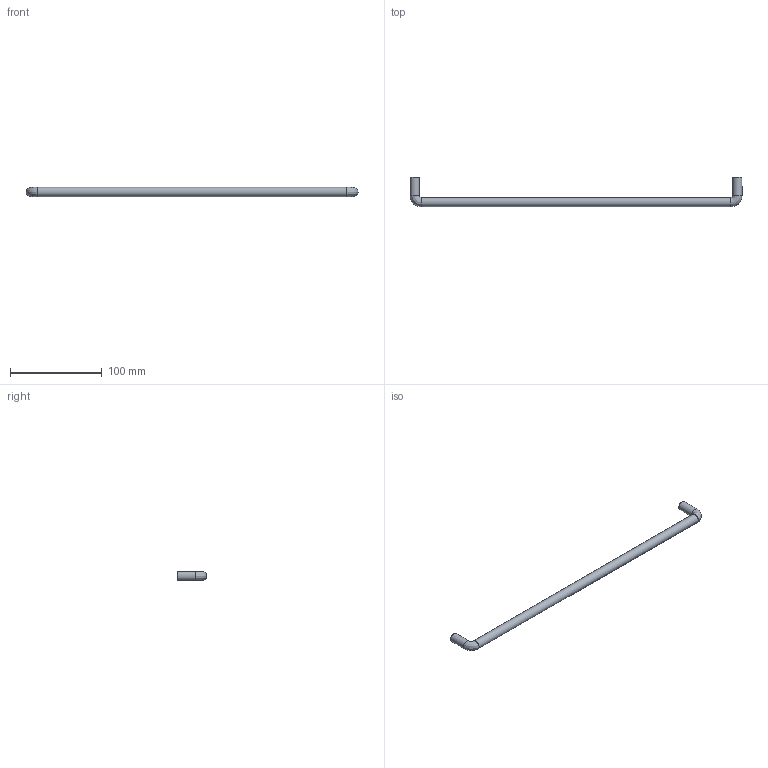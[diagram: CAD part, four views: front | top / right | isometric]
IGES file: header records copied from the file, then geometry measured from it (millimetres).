
Start section: Data from Parasolid IGES Translator 15.0.47, Copyright(c) 2006 Siemens P LM Software. All Rights Reserved.
Global section: file name: 9070421.igs; native system:  By UGS Corp.; preprocessor: XPlus GENERIC/IGES 3.0; author: Noname; organization: Noname; date: 20140122.155432; units: millimetre
Bounding box: 362 x 32 x 10 mm (x, y, z)
Surface area: 12974.5 mm2 (no closed solid volume)
Topology: 0 solids, 0 shells, 11 faces, 42 edges, 38 vertices
Faces by surface type: revolution 7, extrusion 4
